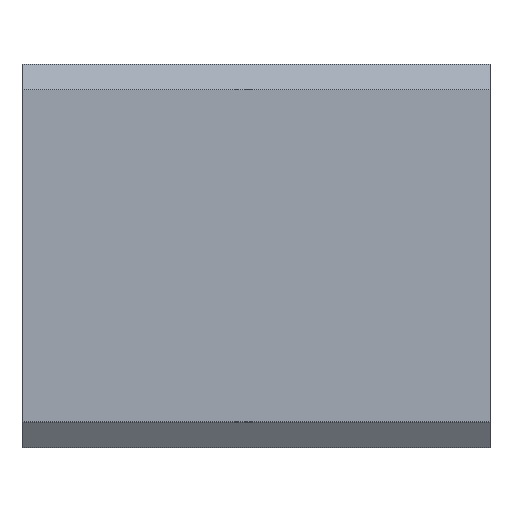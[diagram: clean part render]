
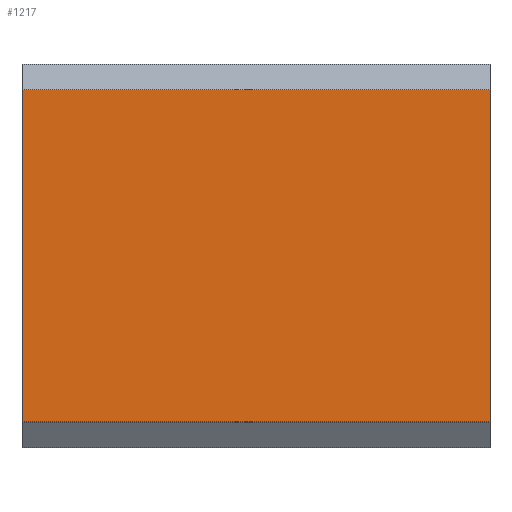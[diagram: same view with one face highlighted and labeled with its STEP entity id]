
A CAD part, top view. The second image highlights one B-rep face of the part: STEP entity #1217.
In plain terms, the highlighted planar face has unit normal (0, 0, 1).
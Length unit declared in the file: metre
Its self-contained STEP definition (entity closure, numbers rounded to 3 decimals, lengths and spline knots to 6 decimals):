
#316=ORIENTED_EDGE('',*,*,#509,.T.);
#317=ORIENTED_EDGE('',*,*,#510,.T.);
#318=ORIENTED_EDGE('',*,*,#505,.F.);
#319=ORIENTED_EDGE('',*,*,#418,.F.);
#418=EDGE_CURVE('',#569,#568,#698,.T.);
#505=EDGE_CURVE('',#568,#622,#785,.T.);
#509=EDGE_CURVE('',#569,#625,#789,.T.);
#510=EDGE_CURVE('',#625,#622,#790,.T.);
#568=VERTEX_POINT('',#1718);
#569=VERTEX_POINT('',#1720);
#622=VERTEX_POINT('',#1893);
#625=VERTEX_POINT('',#1901);
#698=LINE('',#1721,#866);
#785=LINE('',#1892,#953);
#789=LINE('',#1900,#957);
#790=LINE('',#1902,#958);
#866=VECTOR('',#1402,1.);
#953=VECTOR('',#1553,1.);
#957=VECTOR('',#1559,1.);
#958=VECTOR('',#1560,1.);
#1028=EDGE_LOOP('',(#316,#317,#318,#319));
#1098=FACE_BOUND('',#1028,.T.);
#1158=PLANE('',#1281);
#1217=ADVANCED_FACE('',(#1098),#1158,.F.);
#1281=AXIS2_PLACEMENT_3D('',#1899,#1557,#1558);
#1402=DIRECTION('',(-1.,0.,0.));
#1553=DIRECTION('',(0.,1.,0.));
#1557=DIRECTION('',(0.,0.,-1.));
#1558=DIRECTION('',(-1.,0.,0.));
#1559=DIRECTION('',(0.,1.,0.));
#1560=DIRECTION('',(-1.,0.,0.));
#1718=CARTESIAN_POINT('',(0.029598,-0.00325,-0.03));
#1720=CARTESIAN_POINT('',(0.038748,-0.00325,-0.03));
#1721=CARTESIAN_POINT('',(0.038748,-0.00325,-0.03));
#1892=CARTESIAN_POINT('',(0.029598,-0.00375,-0.03));
#1893=CARTESIAN_POINT('',(0.029598,0.00325,-0.03));
#1899=CARTESIAN_POINT('',(0.016198,0.,-0.03));
#1900=CARTESIAN_POINT('',(0.038748,0.,-0.03));
#1901=CARTESIAN_POINT('',(0.038748,0.00325,-0.03));
#1902=CARTESIAN_POINT('',(0.016198,0.00325,-0.03));
